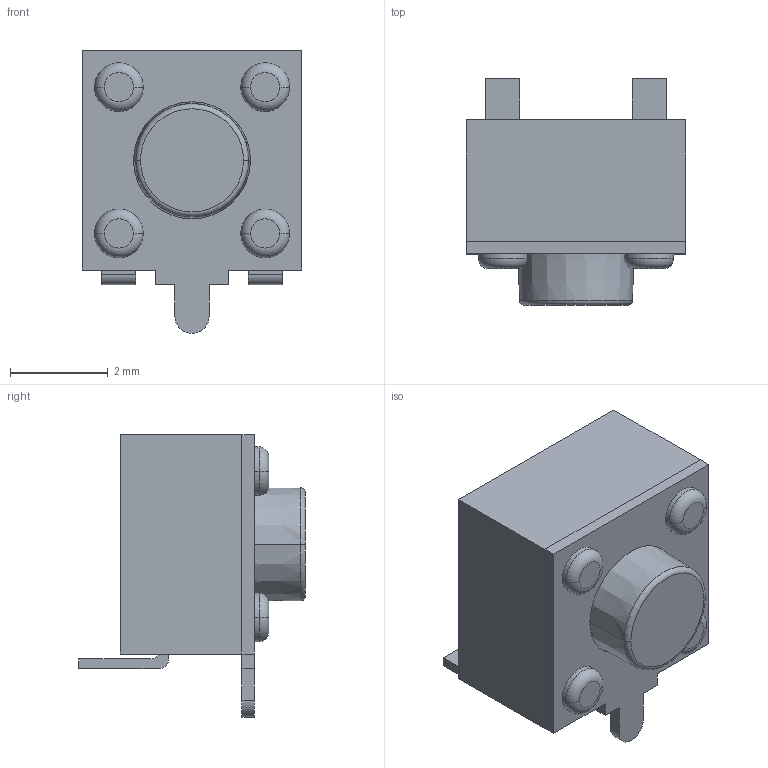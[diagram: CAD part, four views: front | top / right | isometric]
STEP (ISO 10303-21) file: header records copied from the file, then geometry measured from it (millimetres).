
FILE_DESCRIPTION((''),'2;1');
FILE_NAME('JQD4545L-C0381-01G-1-101_ASM','2026-04-21T17:30:30',('Admin'),(''),'CREO PARAMETRIC BY PTC INC, 2019224','CREO PARAMETRIC BY PTC INC, 2019224','');
FILE_SCHEMA(('AUTOMOTIVE_DESIGN { 1 0 10303 214 1 1 1 1 }'));
Length unit declared in the file: millimetre
Products named in the file (3): JQD4545L-C0381-01G-1-101_01; JQD4545L-C0381-01G-1-101_02; JQD4545L-C0381-01G-1-101_ASM
Assembly tree (2 placements, depth 2):
  JQD4545L-C0381-01G-1-101_ASM
    JQD4545L-C0381-01G-1-101_01
    JQD4545L-C0381-01G-1-101_02
Bounding box: 4.5 x 4.65 x 5.8 mm (x, y, z)
Volume: 61.9 mm3; surface area: 150.8 mm2
Topology: 2 solids, 2 shells, 83 faces, 204 edges, 146 vertices
Faces by surface type: plane 40, cylinder 31, torus 10, cone 2
Entity records: 3294 total; most frequent: DIRECTION 478, CARTESIAN_POINT 431, ORIENTED_EDGE 388, EDGE_CURVE 194, AXIS2_PLACEMENT_3D 180, PRESENTATION_STYLE_ASSIGNMENT 158, STYLED_ITEM 142, CURVE_STYLE 141
